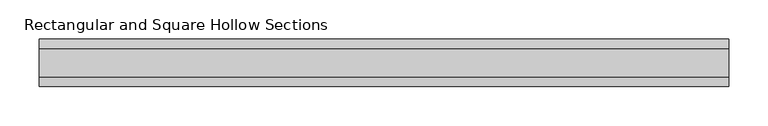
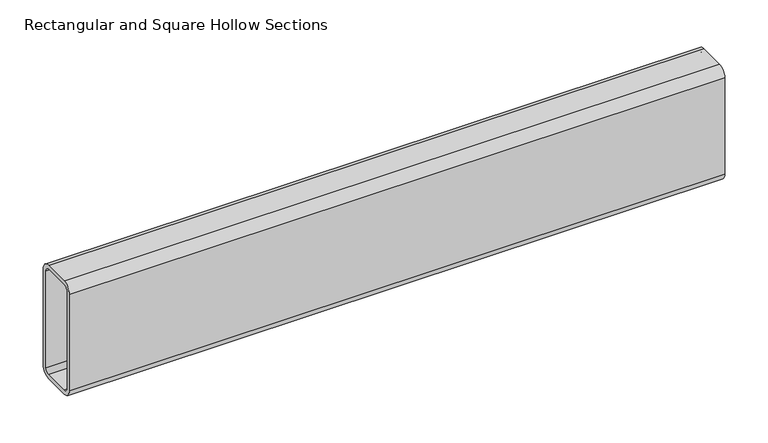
"""IFC4 building model written with IfcOpenShell, lengths in millimetres: beam geometry, Rectangular and Square Hollow Sections : TREC160x60x6."""

from ifc_helpers import new_model, si_unit, point, frame, frame_2d, origin, place, context, project, spatial, polyline, circle_curve, trimmed, segment, composite_curve, outline, extrude, source, transform, mapped, element, save


def rectangular_and_square_hollow_sections_f89f099c(model_context):
    return source(origin(), model_context, "Body", "SweptSolid", [
        extrude(outline(composite_curve([segment(polyline([(30.0, 68.0), (30.0, -68.0)]), True, "CONTINUOUS"), segment(trimmed(circle_curve(frame_2d((18.0, -68.0)), 12.0), [point((30.0, -68.0))], [point((18.0, -80.0))], False, "CARTESIAN"), True, "CONTINUOUS"), segment(polyline([(18.0, -80.0), (-18.0, -80.0)]), True, "CONTINUOUS"), segment(trimmed(circle_curve(frame_2d((-18.0, -68.0)), 12.0), [point((-18.0, -80.0))], [point((-30.0, -68.0))], False, "CARTESIAN"), True, "CONTINUOUS"), segment(polyline([(-30.0, -68.0), (-30.0, 68.0)]), True, "CONTINUOUS"), segment(trimmed(circle_curve(frame_2d((-18.0, 68.0)), 12.0), [point((-30.0, 68.0))], [point((-18.0, 80.0))], False, "CARTESIAN"), True, "CONTINUOUS"), segment(polyline([(-18.0, 80.0), (18.0, 80.0)]), True, "CONTINUOUS"), segment(trimmed(circle_curve(frame_2d((18.0, 68.0)), 12.0), [point((18.0, 80.0))], [point((30.0, 68.0))], False, "CARTESIAN"), True, "CONTINUOUS")], self_intersect=False), holes=[composite_curve([segment(trimmed(circle_curve(frame_2d((-18.0, 68.0)), 6.0), [point((-18.0, 74.0))], [point((-24.0, 68.0))], True, "CARTESIAN"), True, "CONTINUOUS"), segment(polyline([(-24.0, 68.0), (-24.0, -68.0)]), True, "CONTINUOUS"), segment(trimmed(circle_curve(frame_2d((-18.0, -68.0)), 6.0), [point((-24.0, -68.0))], [point((-18.0, -74.0))], True, "CARTESIAN"), True, "CONTINUOUS"), segment(polyline([(-18.0, -74.0), (18.0, -74.0)]), True, "CONTINUOUS"), segment(trimmed(circle_curve(frame_2d((18.0, -68.0)), 6.0), [point((18.0, -74.0))], [point((24.0, -68.0))], True, "CARTESIAN"), True, "CONTINUOUS"), segment(polyline([(24.0, -68.0), (24.0, 68.0)]), True, "CONTINUOUS"), segment(trimmed(circle_curve(frame_2d((18.0, 68.0)), 6.0), [point((24.0, 68.0))], [point((18.0, 74.0))], True, "CARTESIAN"), True, "CONTINUOUS"), segment(polyline([(18.0, 74.0), (-18.0, 74.0)]), True, "CONTINUOUS")], self_intersect=False)]), frame((-443.0, 0.0, 0.0), z_axis=(1.0, 0.0, 0.0), x_axis=(0.0, 1.0, 0.0)), (0.0, 0.0, 1.0), 873.0),
    ])


if __name__ == "__main__":
    model = new_model("IFC4")
    model_context = context("Model", 3, world=origin())
    ifc_project = project(units=[si_unit("LENGTHUNIT", "METRE", prefix="MILLI")], contexts=[model_context])
    site = spatial("IfcSite", under=ifc_project)
    building = spatial("IfcBuilding", under=site)
    placement = place(None, origin())
    rectangular_and_square_hollow_sections_shape = rectangular_and_square_hollow_sections_f89f099c(model_context)
    element("IfcBeam", 1, ObjectType="Rectangular and Square Hollow Sections : TREC160x60x6", at=placement, inside=building, context=model_context, shape_type="MappedRepresentation", body=[
        mapped(rectangular_and_square_hollow_sections_shape, transform((0.0, 0.0, 0.0), x_axis=(1.0, 0.0, 0.0), y_axis=(0.0, 1.0, 0.0), z_axis=(0.0, 0.0, 1.0))),
    ])
    save(model, "model.ifc")
